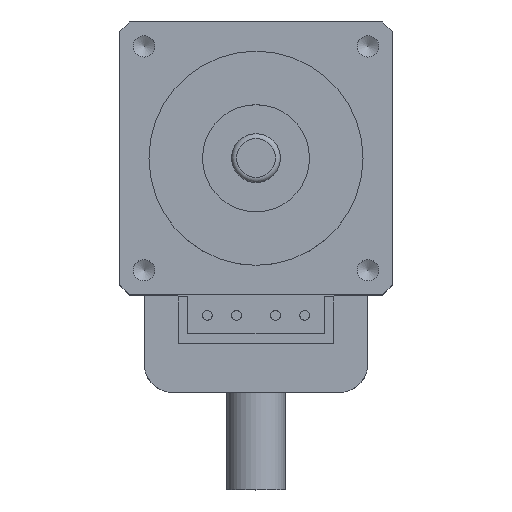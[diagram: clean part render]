
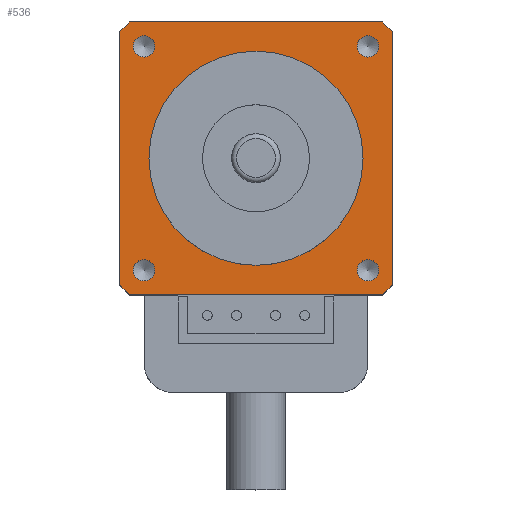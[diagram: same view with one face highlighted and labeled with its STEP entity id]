
A CAD part, top view. The second image highlights one B-rep face of the part: STEP entity #536.
In plain terms, the highlighted planar face has unit normal (0, 0, 1).
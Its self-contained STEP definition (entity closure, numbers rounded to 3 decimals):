
#121=LINE('',#1979,#265);
#124=LINE('',#1985,#268);
#127=LINE('',#1991,#271);
#129=LINE('',#1995,#273);
#132=LINE('',#2009,#276);
#133=LINE('',#2010,#277);
#134=LINE('',#2011,#278);
#135=LINE('',#2012,#279);
#265=VECTOR('',#1608,1.);
#268=VECTOR('',#1613,1.);
#271=VECTOR('',#1618,1.);
#273=VECTOR('',#1622,1.);
#276=VECTOR('',#1635,1.);
#277=VECTOR('',#1636,1.);
#278=VECTOR('',#1637,1.);
#279=VECTOR('',#1638,1.);
#469=PLANE('',#1479);
#536=ADVANCED_FACE('',(#632,#633,#634,#635,#636,#637),#469,.F.);
#632=FACE_BOUND('',#689,.T.);
#633=FACE_BOUND('',#690,.T.);
#634=FACE_BOUND('',#691,.T.);
#635=FACE_BOUND('',#692,.T.);
#636=FACE_BOUND('',#693,.T.);
#637=FACE_BOUND('',#694,.T.);
#689=EDGE_LOOP('',(#816));
#690=EDGE_LOOP('',(#817));
#691=EDGE_LOOP('',(#818));
#692=EDGE_LOOP('',(#819));
#693=EDGE_LOOP('',(#820));
#694=EDGE_LOOP('',(#821,#822,#823,#824,#825,#826,#827,#828));
#816=ORIENTED_EDGE('',*,*,#1281,.T.);
#817=ORIENTED_EDGE('',*,*,#1282,.T.);
#818=ORIENTED_EDGE('',*,*,#1283,.T.);
#819=ORIENTED_EDGE('',*,*,#1284,.T.);
#820=ORIENTED_EDGE('',*,*,#1260,.T.);
#821=ORIENTED_EDGE('',*,*,#1270,.F.);
#822=ORIENTED_EDGE('',*,*,#1285,.T.);
#823=ORIENTED_EDGE('',*,*,#1278,.F.);
#824=ORIENTED_EDGE('',*,*,#1286,.T.);
#825=ORIENTED_EDGE('',*,*,#1276,.F.);
#826=ORIENTED_EDGE('',*,*,#1287,.T.);
#827=ORIENTED_EDGE('',*,*,#1273,.F.);
#828=ORIENTED_EDGE('',*,*,#1288,.T.);
#1133=VERTEX_POINT('',#1957);
#1142=VERTEX_POINT('',#1978);
#1143=VERTEX_POINT('',#1980);
#1144=VERTEX_POINT('',#1984);
#1145=VERTEX_POINT('',#1986);
#1146=VERTEX_POINT('',#1990);
#1147=VERTEX_POINT('',#1992);
#1148=VERTEX_POINT('',#1996);
#1149=VERTEX_POINT('',#1997);
#1150=VERTEX_POINT('',#2002);
#1151=VERTEX_POINT('',#2004);
#1152=VERTEX_POINT('',#2006);
#1153=VERTEX_POINT('',#2008);
#1260=EDGE_CURVE('',#1133,#1133,#1433,.T.);
#1270=EDGE_CURVE('',#1142,#1143,#121,.T.);
#1273=EDGE_CURVE('',#1144,#1145,#124,.T.);
#1276=EDGE_CURVE('',#1146,#1147,#127,.T.);
#1278=EDGE_CURVE('',#1148,#1149,#129,.T.);
#1281=EDGE_CURVE('',#1150,#1150,#1434,.T.);
#1282=EDGE_CURVE('',#1151,#1151,#1435,.T.);
#1283=EDGE_CURVE('',#1152,#1152,#1436,.T.);
#1284=EDGE_CURVE('',#1153,#1153,#1437,.T.);
#1285=EDGE_CURVE('',#1142,#1149,#132,.T.);
#1286=EDGE_CURVE('',#1148,#1147,#133,.T.);
#1287=EDGE_CURVE('',#1146,#1145,#134,.T.);
#1288=EDGE_CURVE('',#1144,#1143,#135,.T.);
#1433=CIRCLE('',#1467,11.);
#1434=CIRCLE('',#1475,1.1);
#1435=CIRCLE('',#1476,1.1);
#1436=CIRCLE('',#1477,1.1);
#1437=CIRCLE('',#1478,1.1);
#1467=AXIS2_PLACEMENT_3D('',#1956,#1591,#1592);
#1475=AXIS2_PLACEMENT_3D('',#2001,#1627,#1628);
#1476=AXIS2_PLACEMENT_3D('',#2003,#1629,#1630);
#1477=AXIS2_PLACEMENT_3D('',#2005,#1631,#1632);
#1478=AXIS2_PLACEMENT_3D('',#2007,#1633,#1634);
#1479=AXIS2_PLACEMENT_3D('',#2013,#1639,#1640);
#1591=DIRECTION('',(0.,0.,-1.));
#1592=DIRECTION('',(1.,0.,0.));
#1608=DIRECTION('',(0.,1.,0.));
#1613=DIRECTION('',(1.,0.,0.));
#1618=DIRECTION('',(0.,-1.,0.));
#1622=DIRECTION('',(-1.,0.,0.));
#1627=DIRECTION('',(0.,0.,-1.));
#1628=DIRECTION('',(-1.,0.,0.));
#1629=DIRECTION('',(0.,0.,-1.));
#1630=DIRECTION('',(-1.,0.,0.));
#1631=DIRECTION('',(0.,0.,-1.));
#1632=DIRECTION('',(-1.,0.,0.));
#1633=DIRECTION('',(0.,0.,-1.));
#1634=DIRECTION('',(-1.,0.,0.));
#1635=DIRECTION('',(0.707,-0.707,0.));
#1636=DIRECTION('',(0.707,0.707,0.));
#1637=DIRECTION('',(-0.707,0.707,0.));
#1638=DIRECTION('',(-0.707,-0.707,0.));
#1639=DIRECTION('',(0.,0.,-1.));
#1640=DIRECTION('',(-1.,0.,0.));
#1956=CARTESIAN_POINT('',(0.,0.,0.));
#1957=CARTESIAN_POINT('',(11.,0.,0.));
#1978=CARTESIAN_POINT('',(-14.,-13.,0.));
#1979=CARTESIAN_POINT('',(-14.,-14.,0.));
#1980=CARTESIAN_POINT('',(-14.,13.,0.));
#1984=CARTESIAN_POINT('',(-13.,14.,0.));
#1985=CARTESIAN_POINT('',(-14.,14.,0.));
#1986=CARTESIAN_POINT('',(13.,14.,0.));
#1990=CARTESIAN_POINT('',(14.,13.,0.));
#1991=CARTESIAN_POINT('',(14.,14.,0.));
#1992=CARTESIAN_POINT('',(14.,-13.,0.));
#1995=CARTESIAN_POINT('',(14.,-14.,0.));
#1996=CARTESIAN_POINT('',(13.,-14.,0.));
#1997=CARTESIAN_POINT('',(-13.,-14.,0.));
#2001=CARTESIAN_POINT('',(11.5,11.5,0.));
#2002=CARTESIAN_POINT('',(10.4,11.5,0.));
#2003=CARTESIAN_POINT('',(-11.5,11.5,0.));
#2004=CARTESIAN_POINT('',(-12.6,11.5,0.));
#2005=CARTESIAN_POINT('',(-11.5,-11.5,0.));
#2006=CARTESIAN_POINT('',(-12.6,-11.5,0.));
#2007=CARTESIAN_POINT('',(11.5,-11.5,0.));
#2008=CARTESIAN_POINT('',(10.4,-11.5,0.));
#2009=CARTESIAN_POINT('',(-14.,-13.,0.));
#2010=CARTESIAN_POINT('',(13.,-14.,0.));
#2011=CARTESIAN_POINT('',(14.,13.,0.));
#2012=CARTESIAN_POINT('',(-13.,14.,0.));
#2013=CARTESIAN_POINT('',(-14.,-14.,0.));
